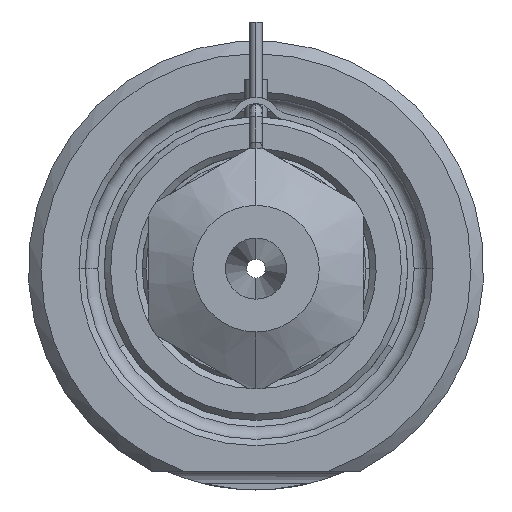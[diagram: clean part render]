
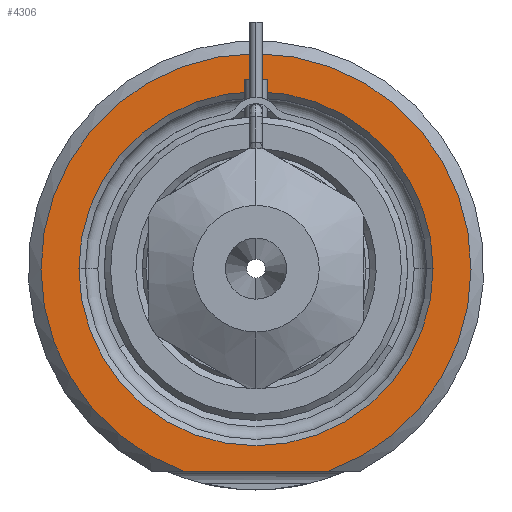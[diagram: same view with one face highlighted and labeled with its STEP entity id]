
A CAD part, front view. The second image highlights one B-rep face of the part: STEP entity #4306.
In plain terms, the highlighted planar face has unit normal (0, -1, 0).
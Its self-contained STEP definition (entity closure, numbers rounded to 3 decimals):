
#1368=CARTESIAN_POINT('',(0.,0.,0.));
#1369=DIRECTION('',(0.,-1.,0.));
#1370=DIRECTION('',(0.338,0.,-0.941));
#1371=AXIS2_PLACEMENT_3D('',#1368,#1369,#1370);
#1392=DIRECTION('',(1.,0.,0.));
#1393=VECTOR('',#1392,11.489);
#1394=CARTESIAN_POINT('',(-5.745,0.,-16.));
#1395=LINE('',#1394,#1393);
#1396=CARTESIAN_POINT('',(0.,0.,0.));
#1397=DIRECTION('',(0.,1.,0.));
#1398=DIRECTION('',(-1.,0.,0.));
#1399=AXIS2_PLACEMENT_3D('',#1396,#1397,#1398);
#1401=CARTESIAN_POINT('',(0.,0.,0.));
#1402=DIRECTION('',(0.,1.,0.));
#1403=DIRECTION('',(1.,0.,0.));
#1404=AXIS2_PLACEMENT_3D('',#1401,#1402,#1403);
#2305=CARTESIAN_POINT('',(-14.,0.,0.));
#2306=CARTESIAN_POINT('',(14.,0.,0.));
#2307=VERTEX_POINT('',#2305);
#2308=VERTEX_POINT('',#2306);
#2345=CARTESIAN_POINT('',(-5.745,0.,-16.));
#2346=CARTESIAN_POINT('',(5.745,0.,-16.));
#2347=VERTEX_POINT('',#2345);
#2348=VERTEX_POINT('',#2346);
#4291=CARTESIAN_POINT('',(0.,0.,0.));
#4292=DIRECTION('',(0.,-1.,0.));
#4293=DIRECTION('',(1.,0.,0.));
#4294=AXIS2_PLACEMENT_3D('',#4291,#4292,#4293);
#4295=PLANE('',#4294);
#4296=ORIENTED_EDGE('',*,*,#4223,.F.);
#4297=ORIENTED_EDGE('',*,*,#4283,.F.);
#4298=EDGE_LOOP('',(#4296,#4297));
#4299=FACE_OUTER_BOUND('',#4298,.F.);
#4301=ORIENTED_EDGE('',*,*,#4300,.F.);
#4303=ORIENTED_EDGE('',*,*,#4302,.F.);
#4304=EDGE_LOOP('',(#4301,#4303));
#4305=FACE_BOUND('',#4304,.F.);
#4306=ADVANCED_FACE('',(#4299,#4305),#4295,.T.);
#1372=CIRCLE('',#1371,17.);
#1400=CIRCLE('',#1399,14.);
#1405=CIRCLE('',#1404,14.);
#4223=EDGE_CURVE('',#2347,#2348,#1395,.T.);
#4283=EDGE_CURVE('',#2348,#2347,#1372,.T.);
#4300=EDGE_CURVE('',#2307,#2308,#1400,.T.);
#4302=EDGE_CURVE('',#2308,#2307,#1405,.T.);
